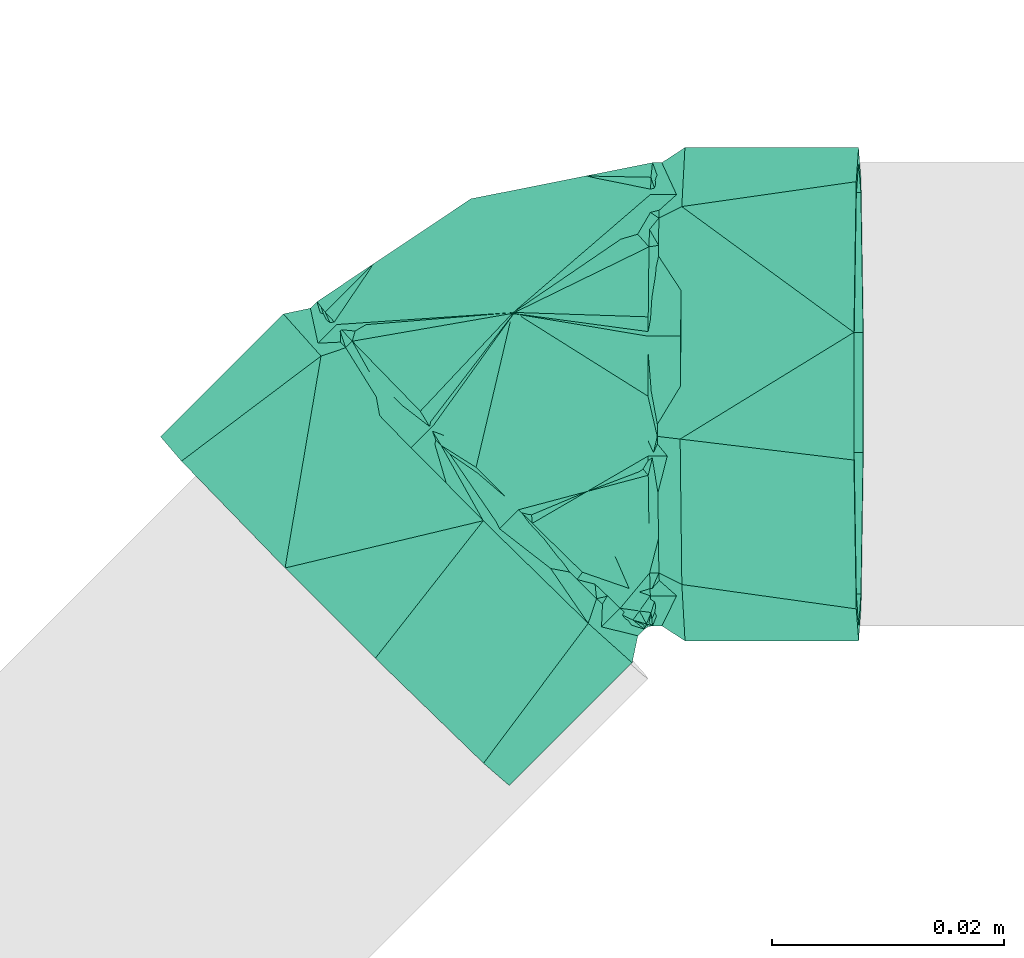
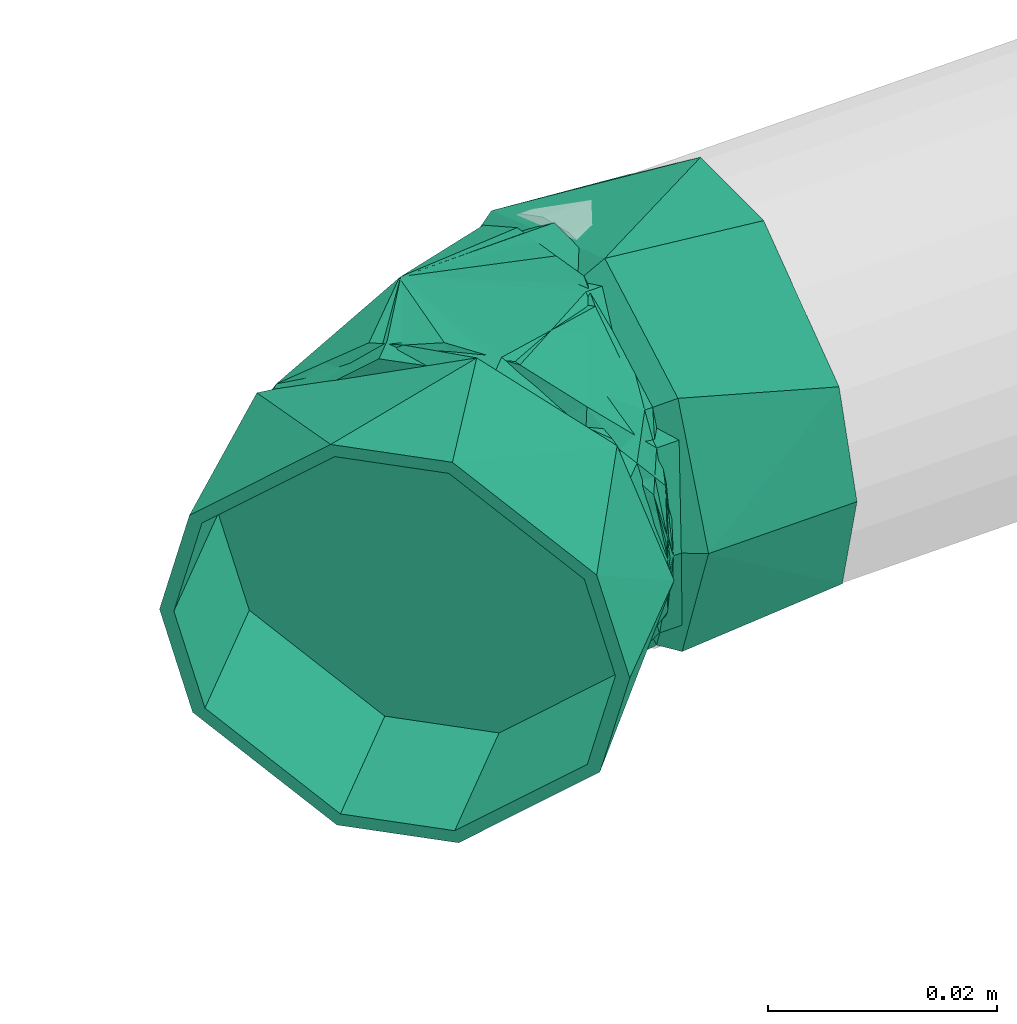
# One storey, part 343 of 589: 1 flow fitting.
"""IFC2X3 building model written with IfcOpenShell, lengths in millimetres."""

from ifc_helpers import new_model, entity, si_unit, converted_unit, derived_unit, direction, frame, origin, place, context, subcontext, project, spatial, faceted_brep, source, transform, mapped, material, type_object, type_shapes, element, save


model = new_model("IFC2X3")

# Units and contexts
model_context = context("Model", 3, precision=0.01, world=origin(), true_north=direction((6.123031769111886e-17, 1.0)))
body_context = subcontext(model_context, "Body", "Model", "MODEL_VIEW")
ifc_project = project(units=[si_unit("LENGTHUNIT", "METRE", prefix="MILLI"), si_unit("AREAUNIT", "SQUARE_METRE"), si_unit("VOLUMEUNIT", "CUBIC_METRE"), converted_unit("PLANEANGLEUNIT", "DEGREE", entity("IfcRatioMeasure", 0.017453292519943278), si_unit("PLANEANGLEUNIT", "RADIAN"), dimensions=[0, 0, 0, 0, 0, 0, 0]), si_unit("MASSUNIT", "GRAM", prefix="KILO"), derived_unit("MASSDENSITYUNIT", [(si_unit("MASSUNIT", "GRAM", prefix="KILO"), 1), (si_unit("LENGTHUNIT", "METRE"), -3)]), derived_unit("IONCONCENTRATIONUNIT", [(si_unit("MASSUNIT", "GRAM", prefix="KILO"), 1), (si_unit("LENGTHUNIT", "METRE"), -3)]), derived_unit("MOMENTOFINERTIAUNIT", [(si_unit("LENGTHUNIT", "METRE"), 4)]), si_unit("TIMEUNIT", "SECOND"), si_unit("FREQUENCYUNIT", "HERTZ"), si_unit("THERMODYNAMICTEMPERATUREUNIT", "DEGREE_CELSIUS"), derived_unit("THERMALTRANSMITTANCEUNIT", [(si_unit("MASSUNIT", "GRAM", prefix="KILO"), 1), (si_unit("THERMODYNAMICTEMPERATUREUNIT", "KELVIN"), -1), (si_unit("TIMEUNIT", "SECOND"), -3)]), derived_unit("THERMALCONDUCTANCEUNIT", [(si_unit("MASSUNIT", "GRAM", prefix="KILO"), 1), (si_unit("THERMODYNAMICTEMPERATUREUNIT", "KELVIN"), -1), (si_unit("TIMEUNIT", "SECOND"), -3), (si_unit("LENGTHUNIT", "METRE"), 1)]), derived_unit("VOLUMETRICFLOWRATEUNIT", [(si_unit("LENGTHUNIT", "METRE"), 3), (si_unit("TIMEUNIT", "SECOND"), -1)]), derived_unit("MASSFLOWRATEUNIT", [(si_unit("MASSUNIT", "GRAM", prefix="KILO"), 1), (si_unit("TIMEUNIT", "SECOND"), -1)]), derived_unit("ROTATIONALFREQUENCYUNIT", [(si_unit("TIMEUNIT", "SECOND"), -1)]), si_unit("ELECTRICCURRENTUNIT", "AMPERE"), si_unit("ELECTRICVOLTAGEUNIT", "VOLT"), si_unit("POWERUNIT", "WATT"), si_unit("FORCEUNIT", "NEWTON", prefix="KILO"), si_unit("ILLUMINANCEUNIT", "LUX"), si_unit("LUMINOUSFLUXUNIT", "LUMEN"), si_unit("LUMINOUSINTENSITYUNIT", "CANDELA"), derived_unit("USERDEFINED", [(si_unit("MASSUNIT", "GRAM", prefix="KILO"), -1), (si_unit("LENGTHUNIT", "METRE"), -2), (si_unit("TIMEUNIT", "SECOND"), 3), (si_unit("LUMINOUSFLUXUNIT", "LUMEN"), 1)]), derived_unit("USERDEFINED", [(si_unit("MASSUNIT", "GRAM", prefix="KILO"), 1), (si_unit("TIMEUNIT", "SECOND"), -3), (si_unit("LENGTHUNIT", "METRE"), 3), (si_unit("ELECTRICCURRENTUNIT", "AMPERE"), -2)]), derived_unit("SOUNDPOWERUNIT", [(si_unit("MASSUNIT", "GRAM", prefix="KILO"), 1), (si_unit("TIMEUNIT", "SECOND"), -3), (si_unit("LENGTHUNIT", "METRE"), 2)]), derived_unit("SOUNDPRESSUREUNIT", [(si_unit("MASSUNIT", "GRAM", prefix="KILO"), 1), (si_unit("LENGTHUNIT", "METRE"), -1), (si_unit("TIMEUNIT", "SECOND"), -2)]), derived_unit("LINEARVELOCITYUNIT", [(si_unit("LENGTHUNIT", "METRE"), 1), (si_unit("TIMEUNIT", "SECOND"), -1)]), si_unit("PRESSUREUNIT", "PASCAL"), derived_unit("USERDEFINED", [(si_unit("MASSUNIT", "GRAM", prefix="KILO"), 1), (si_unit("LENGTHUNIT", "METRE"), -2), (si_unit("TIMEUNIT", "SECOND"), -2)]), derived_unit("LINEARFORCEUNIT", [(si_unit("MASSUNIT", "GRAM", prefix="KILO"), 1), (si_unit("TIMEUNIT", "SECOND"), -2)]), derived_unit("PLANARFORCEUNIT", [(si_unit("MASSUNIT", "GRAM", prefix="KILO"), 1), (si_unit("LENGTHUNIT", "METRE"), -1), (si_unit("TIMEUNIT", "SECOND"), -2)]), derived_unit("SPECIFICHEATCAPACITYUNIT", [(si_unit("THERMODYNAMICTEMPERATUREUNIT", "KELVIN"), -1), (si_unit("LENGTHUNIT", "METRE"), 2), (si_unit("TIMEUNIT", "SECOND"), -2)]), derived_unit("HEATINGVALUEUNIT", [(si_unit("LENGTHUNIT", "METRE"), 2), (si_unit("TIMEUNIT", "SECOND"), -2)]), derived_unit("VAPORPERMEABILITYUNIT", [(si_unit("LENGTHUNIT", "METRE"), -1), (si_unit("TIMEUNIT", "SECOND"), 1)]), derived_unit("DYNAMICVISCOSITYUNIT", [(si_unit("MASSUNIT", "GRAM", prefix="KILO"), 1), (si_unit("TIMEUNIT", "SECOND"), -1), (si_unit("LENGTHUNIT", "METRE"), -1)]), derived_unit("THERMALEXPANSIONCOEFFICIENTUNIT", [(si_unit("THERMODYNAMICTEMPERATUREUNIT", "KELVIN"), -1)]), derived_unit("MODULUSOFELASTICITYUNIT", [(si_unit("MASSUNIT", "GRAM", prefix="KILO"), 1), (si_unit("LENGTHUNIT", "METRE"), -1), (si_unit("TIMEUNIT", "SECOND"), -2)]), derived_unit("ISOTHERMALMOISTURECAPACITYUNIT", [(si_unit("LENGTHUNIT", "METRE"), 3), (si_unit("MASSUNIT", "GRAM", prefix="KILO"), -1)]), derived_unit("MOISTUREDIFFUSIVITYUNIT", [(si_unit("TIMEUNIT", "SECOND"), -1), (si_unit("LENGTHUNIT", "METRE"), 2)])], contexts=[model_context])

# Site, building, storey
site_placement = place(None, origin())
site = spatial("IfcSite", under=ifc_project, at=site_placement, Name="Default", CompositionType="ELEMENT")
building_placement = place(site_placement, origin())
building = spatial("IfcBuilding", under=site, at=building_placement, CompositionType="ELEMENT")
storey_placement = place(building_placement, frame((0.0, 0.0, 100.0)))
storey = spatial("IfcBuildingStorey", under=building, at=storey_placement, Name="TÉRREO", CompositionType="ELEMENT", Elevation=100.0)

# Flow fitting
ifc_material = material(Name="PVC Série Normal")
pipe_fitting_type = type_object("IfcPipeFittingType", Name="PVC Esgoto_Joelho 45_90_Rodrigo MEP:a. Série Normal", PredefinedType="NOTDEFINED", material=ifc_material)
shared_shape = source(origin(), body_context, "Body", "Brep", [
    faceted_brep([(2.4906876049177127, 9.80915852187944, 19.318516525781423), (-6.095084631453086, 18.39777540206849, 10.0), (-7.989457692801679, 20.29277610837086, 0.0), (-6.095084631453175, 18.397775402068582, -10.0), (2.4906876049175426, 9.80915852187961, -19.31851652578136), (9.809983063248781, 2.4874380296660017, -19.318516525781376), (18.39575529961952, -6.101178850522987, -10.0), (20.290128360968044, -7.99617955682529, 0.0), (18.39575529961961, -6.101178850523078, 10.0), (9.809983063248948, 2.4874380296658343, 19.318516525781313), (22.27035525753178, -6.016608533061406, 0.0), (20.37598219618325, -4.121607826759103, -10.0), (11.790209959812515, 4.467009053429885, -19.318516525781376), (4.470914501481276, 11.788729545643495, -19.31851652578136), (-4.1148577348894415, 20.377346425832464, -10.0), (-6.009230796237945, 22.272347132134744, 0.0), (-4.114857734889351, 20.377346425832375, 10.0), (4.470914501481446, 11.788729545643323, 19.318516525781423), (11.790209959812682, 4.467009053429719, 19.318516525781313), (20.37598219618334, -4.12160782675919, 10.0)], [[[0, 1, 2, 3, 4, 5, 6, 7, 8, 9]], [[10, 11, 12, 13, 14, 15, 16, 17, 18, 19]], [[7, 10, 19, 8]], [[8, 19, 18, 9]], [[18, 17, 0, 9]], [[0, 17, 16, 1]], [[1, 16, 15, 2]], [[2, 15, 14, 3]], [[3, 14, 13, 4]], [[13, 12, 5, 4]], [[5, 12, 11, 6]], [[6, 11, 10, 7]]]),
    faceted_brep([(-11.496447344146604, -17.320508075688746, -10.0), (-11.496447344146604, -20.0, 0.0), (-11.496447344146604, -17.320508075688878, 10.0), (-11.496447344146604, -5.176380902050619, 19.318516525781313), (-11.496447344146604, 5.1763809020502, 19.318516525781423), (-11.496447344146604, 17.320508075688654, 10.0), (-11.496447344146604, 20.0, 0.0), (-11.496447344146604, 17.320508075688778, -10.0), (-11.496447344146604, 5.17638090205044, -19.31851652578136), (-11.496447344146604, -5.176380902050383, -19.318516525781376), (-8.696447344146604, 5.17638090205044, -19.31851652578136), (-8.696447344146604, 17.320508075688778, -10.0), (-8.696447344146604, 20.0, 0.0), (-8.696447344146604, 17.320508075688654, 10.0), (-8.696447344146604, 5.1763809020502, 19.318516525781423), (-8.696447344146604, -5.176380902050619, 19.318516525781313), (-8.696447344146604, -17.320508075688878, 10.0), (-8.696447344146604, -20.0, 0.0), (-8.696447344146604, -17.320508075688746, -10.0), (-8.696447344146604, -5.176380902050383, -19.318516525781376)], [[[0, 1, 2, 3, 4, 5, 6, 7, 8, 9]], [[10, 11, 12, 13, 14, 15, 16, 17, 18, 19]], [[1, 17, 16, 2]], [[2, 16, 15, 3]], [[15, 14, 4, 3]], [[4, 14, 13, 5]], [[5, 13, 12, 6]], [[6, 12, 11, 7]], [[7, 11, 10, 8]], [[10, 19, 9, 8]], [[9, 19, 18, 0]], [[0, 18, 17, 1]]]),
    faceted_brep([(-26.496447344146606, -5.512845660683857, -20.574220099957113), (-26.496447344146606, -5.176380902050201, -19.318516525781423), (-26.496447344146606, 5.176380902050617, -19.318516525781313), (-26.496447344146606, -18.44634110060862, -10.649999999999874), (-26.496447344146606, 5.512845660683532, -20.574220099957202), (-26.496447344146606, -17.320508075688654, -10.0), (-26.496447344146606, -20.0, 0.0), (-26.496447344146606, -21.3, 0.0), (-26.496447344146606, -17.32050807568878, 10.0), (-26.496447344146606, -18.446341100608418, 10.65000000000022), (-26.496447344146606, -5.176380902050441, 19.31851652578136), (-26.496447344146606, -5.512845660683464, 20.574220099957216), (-26.496447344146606, 5.176380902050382, 19.318516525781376), (-26.496447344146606, 5.512845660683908, 20.5742200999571), (-26.496447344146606, 17.320508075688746, 10.0), (-26.496447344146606, 18.446341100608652, 10.649999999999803), (-26.496447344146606, 21.3, 0.0), (-26.496447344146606, 20.0, 0.0), (-26.496447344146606, 18.44634110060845, -10.650000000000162), (-26.496447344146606, 17.320508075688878, -10.0), (-11.496447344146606, 17.320508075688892, -10.0), (-11.496447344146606, 20.0, 0.0), (-11.496447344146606, 5.17638090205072, -19.318516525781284), (-11.496447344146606, -5.176380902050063, -19.31851652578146), (-11.496447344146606, -17.320508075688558, -10.0), (-11.496447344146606, -20.0, 0.0), (-11.496447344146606, -17.320508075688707, 10.0), (-11.496447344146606, -5.176380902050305, 19.318516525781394), (-11.496447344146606, 5.176380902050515, 19.318516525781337), (-11.496447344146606, 17.320508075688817, 10.0), (-11.496447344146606, 21.3, 0.0), (-11.496447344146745, 16.315983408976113, 13.692285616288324), (-11.496447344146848, 3.696367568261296, 20.976817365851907), (-11.496447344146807, -16.31941754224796, 13.688192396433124), (-11.496447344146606, -21.3, 0.0), (-11.496447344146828, -6.311524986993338, 17.3325048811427), (-11.496447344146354, -16.319417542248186, -13.688192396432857), (-11.496447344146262, -3.7016293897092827, -20.975889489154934), (-11.49644734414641, 16.315983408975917, -13.692285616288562), (-11.496447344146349, 6.307177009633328, -17.334087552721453), (-9.496447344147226, -3.470767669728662, -19.69654212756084), (-9.496447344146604, 20.0, 0.0), (-9.496447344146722, 18.830849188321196, -3.2131907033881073), (-9.496447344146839, 17.66169837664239, -6.426381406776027), (-9.496447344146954, 16.4925475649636, -9.639572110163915), (-9.496447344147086, 15.323396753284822, -12.852762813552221), (-9.496447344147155, 5.9263145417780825, -16.27465247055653), (-9.496447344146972, -15.320172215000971, -12.856606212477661), (-9.496447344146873, -16.490129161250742, -9.642454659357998), (-9.496447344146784, -17.660086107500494, -6.428303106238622), (-9.496447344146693, -18.830043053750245, -3.214151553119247), (-9.496447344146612, -20.0, 0.0), (-9.496447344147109, 10.624855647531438, -14.563707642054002), (-9.496447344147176, 1.2277734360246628, -17.98559729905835), (-9.49644734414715, -6.433118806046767, -17.98655814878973), (-9.496447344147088, -9.395469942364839, -16.276574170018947), (-9.496447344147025, -12.357821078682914, -14.566590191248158), (-9.49644734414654, -18.830043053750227, 3.2141515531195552), (-9.496447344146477, -17.660086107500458, 6.428303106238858), (-9.49644734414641, -16.490129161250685, 9.64245465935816), (-9.496447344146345, -15.3201722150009, 12.856606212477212), (-9.496447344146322, -12.970687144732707, 13.711489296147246), (-9.496447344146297, -10.621202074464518, 14.566372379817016), (-9.496447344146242, -5.922231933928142, 16.27613854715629), (-9.496447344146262, 15.323396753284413, 12.852762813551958), (-9.496447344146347, 16.49254756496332, 9.63957211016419), (-9.496447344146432, 17.661698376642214, 6.426381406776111), (-9.496447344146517, 18.830849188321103, 3.213190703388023), (-9.496447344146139, 3.47570834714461, 19.695670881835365), (-9.496447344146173, 6.43763044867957, 17.984943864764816), (-9.496447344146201, 9.399552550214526, 16.274216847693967), (-9.496447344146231, 12.361474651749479, 14.563489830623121), (-9.496447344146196, -1.2232617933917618, 17.985904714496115), (-8.696447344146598, 17.057389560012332, 9.848048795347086), (-8.696447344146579, 6.840479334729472, 18.793824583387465), (-8.696447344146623, -9.848049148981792, 17.057385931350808), (-8.696447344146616, -3.420183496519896, 19.396932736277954), (-8.696447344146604, 0.0, 20.0), (-8.696447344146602, 19.396930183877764, 3.4201905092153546), (-8.696447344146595, 15.320918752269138, 12.855716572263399), (-8.696447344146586, 11.080699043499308, 15.82477057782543), (-8.696447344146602, 18.793860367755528, 6.840381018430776), (-8.696447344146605, -18.793848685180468, 6.840413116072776), (-8.696447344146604, 20.0, 0.0), (-8.696447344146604, -20.0, 0.0), (-8.69644734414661, -15.824789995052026, 11.080659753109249), (-8.696447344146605, -19.156924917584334, 4.781308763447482), (-8.696447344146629, -6.84036699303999, 18.793865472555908), (-8.696447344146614, -14.34026064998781, 13.200783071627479), (-8.696447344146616, -12.855731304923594, 15.320906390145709), (-8.696447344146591, 3.420239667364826, 19.396912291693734), (-8.696447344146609, -17.057361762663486, -9.848091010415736), (-8.696447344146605, -18.793848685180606, -6.840413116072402), (-8.696447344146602, 19.39693018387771, -3.4201905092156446), (-8.696447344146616, -3.420183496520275, -19.396932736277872), (-8.696447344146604, 0.0, -20.0), (-8.696447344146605, -19.396924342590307, -3.4202065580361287), (-8.696447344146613, -15.320874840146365, -12.85576890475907), (-8.69644734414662, -11.080620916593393, -15.824817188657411), (-8.696447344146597, 15.824828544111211, -11.080616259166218), (-8.696447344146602, 18.79386036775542, -6.84038101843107), (-8.696447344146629, -6.840366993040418, -18.79386547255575), (-8.696447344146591, 12.855796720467, -15.320851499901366), (-8.696447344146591, 3.420239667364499, -19.396912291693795), (-8.696447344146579, 6.840479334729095, -18.7938245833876), (-8.696447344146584, 9.848138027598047, -17.05733804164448), (9.809983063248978, 2.4874380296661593, -19.318516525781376), (2.4906876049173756, 9.809158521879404, -19.31851652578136), (-6.095084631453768, 18.397775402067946, -10.0), (-7.989457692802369, 20.292776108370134, 0.0), (-6.095084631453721, 18.3977754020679, 10.0), (2.490687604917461, 9.809158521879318, 19.31851652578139), (9.809983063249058, 2.487438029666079, 19.318516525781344), (18.395755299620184, -6.101178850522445, 10.0), (20.29012836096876, -7.996179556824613, 0.0), (18.39575529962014, -6.101178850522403, -10.0), (-2.9114305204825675, -18.849537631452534, 0.0), (15.385461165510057, -11.272492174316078, 0.0), (2.8664382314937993, -7.211469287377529, 17.605576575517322), (6.9904363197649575, -16.880360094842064, 0.0), (-8.313840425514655, 20.076088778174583, 0.0), (2.8664382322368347, -7.211469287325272, -17.605576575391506)], [[[0, 1, 2]], [[1, 0, 3]], [[2, 4, 0]], [[3, 5, 1]], [[3, 6, 5]], [[6, 3, 7]], [[8, 6, 7]], [[8, 7, 9]], [[9, 10, 8]], [[9, 11, 10]], [[10, 11, 12]], [[13, 12, 11]], [[13, 14, 12]], [[14, 13, 15]], [[16, 14, 15]], [[17, 14, 16]], [[18, 17, 16]], [[18, 19, 17]], [[19, 18, 4]], [[4, 2, 19]], [[20, 21, 17, 19]], [[22, 20, 19, 2]], [[2, 1, 23, 22]], [[24, 23, 1, 5]], [[25, 24, 5, 6]], [[26, 25, 6, 8]], [[27, 26, 8, 10]], [[10, 12, 28, 27]], [[29, 28, 12, 14]], [[21, 29, 14, 17]], [[16, 15, 30]], [[15, 31, 30]], [[31, 15, 13]], [[31, 13, 32]], [[33, 11, 9]], [[34, 9, 7]], [[11, 33, 35, 32]], [[33, 9, 34]], [[11, 32, 13]], [[7, 3, 34]], [[3, 36, 34]], [[36, 3, 0]], [[36, 0, 37]], [[38, 4, 18]], [[30, 18, 16]], [[4, 38, 39, 37]], [[38, 18, 30]], [[4, 37, 0]], [[28, 29, 21, 20, 22, 23, 24, 25, 26, 27]], [[39, 40, 37]], [[30, 41, 42, 43, 44, 45]], [[30, 45, 38]], [[38, 46, 39]], [[36, 47, 48, 49, 50, 51]], [[38, 45, 52, 46]], [[36, 37, 47]], [[34, 36, 51]], [[39, 46, 53, 40]], [[37, 40, 54, 55, 56, 47]], [[33, 51, 57, 58, 59, 60]], [[33, 34, 51]], [[60, 35, 33]], [[35, 60, 61, 62, 63]], [[63, 32, 35]], [[30, 64, 65, 66, 67, 41]], [[31, 68, 69, 70, 71, 64]], [[31, 64, 30]], [[32, 63, 72, 68]], [[68, 31, 32]], [[64, 73, 65]], [[74, 70, 69, 68]], [[62, 75, 63]], [[76, 77, 72]], [[78, 67, 66]], [[79, 71, 80]], [[65, 81, 66]], [[64, 79, 73]], [[82, 59, 58]], [[83, 41, 67]], [[84, 57, 51]], [[60, 59, 85]], [[83, 67, 78]], [[86, 82, 58]], [[81, 65, 73]], [[63, 87, 76]], [[63, 76, 72]], [[63, 75, 87]], [[82, 85, 59]], [[68, 72, 77]], [[66, 81, 78]], [[61, 88, 89]], [[89, 62, 61]], [[68, 77, 90, 74]], [[84, 86, 57]], [[86, 58, 57]], [[89, 75, 62]], [[61, 60, 88]], [[60, 85, 88]], [[74, 80, 70]], [[71, 79, 64]], [[71, 70, 80]], [[49, 91, 92]], [[93, 43, 42]], [[54, 40, 94]], [[40, 53, 95]], [[51, 96, 84]], [[97, 56, 98]], [[48, 97, 91]], [[91, 49, 48]], [[99, 44, 100]], [[101, 55, 54]], [[96, 51, 50]], [[83, 42, 41]], [[45, 99, 102]], [[49, 92, 50]], [[42, 83, 93]], [[48, 47, 97]], [[53, 103, 95]], [[104, 103, 46]], [[52, 105, 46]], [[44, 99, 45]], [[46, 103, 53]], [[50, 92, 96]], [[105, 52, 102]], [[44, 43, 100]], [[40, 95, 94]], [[100, 43, 93]], [[102, 52, 45]], [[105, 104, 46]], [[101, 98, 55]], [[54, 94, 101]], [[56, 97, 47]], [[56, 55, 98]], [[106, 107, 108, 109, 110, 111, 112, 113, 114, 115]], [[116, 89, 88, 85, 82]], [[117, 118, 119]], [[118, 89, 119]], [[118, 77, 76, 87]], [[116, 82, 86, 84]], [[118, 74, 90, 77]], [[110, 81, 73, 79]], [[111, 79, 80, 74]], [[118, 87, 75, 89]], [[89, 116, 119]], [[74, 118, 111]], [[118, 113, 112]], [[118, 117, 113]], [[120, 83, 78, 81]], [[81, 109, 120]], [[109, 81, 110]], [[117, 114, 113]], [[111, 110, 79]], [[111, 118, 112]], [[104, 107, 121]], [[116, 92, 91, 97]], [[108, 102, 99, 100]], [[115, 121, 106]], [[97, 121, 119]], [[107, 104, 105, 102]], [[116, 84, 96, 92]], [[97, 119, 116]], [[121, 97, 98, 101]], [[121, 95, 103, 104]], [[109, 100, 120]], [[108, 100, 109]], [[107, 102, 108]], [[121, 101, 94, 95]], [[107, 106, 121]], [[119, 121, 117]], [[115, 117, 121]], [[115, 114, 117]], [[120, 100, 93, 83]]]),
    faceted_brep([(-6.009230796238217, 22.27234713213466, 0.0), (-4.114857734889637, 20.37734642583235, 10.0), (4.470914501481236, 11.788729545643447, 19.318516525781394), (11.790209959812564, 4.467009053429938, 19.318516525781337), (20.375982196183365, -4.1216078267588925, 10.0), (22.27035525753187, -6.016608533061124, 0.0), (20.37598219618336, -4.121607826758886, -10.0), (11.790209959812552, 4.467009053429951, -19.318516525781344), (4.470914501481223, 11.788729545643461, -19.31851652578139), (-4.114857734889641, 20.377346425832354, -10.0), (23.18944180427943, -6.935999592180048, 0.0), (20.855907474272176, -7.430587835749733, 0.0), (20.02932994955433, -6.603736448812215, -3.213190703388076), (19.20275242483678, -5.7768850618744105, -6.426381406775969), (18.376174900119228, -4.950033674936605, -9.639572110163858), (17.54959737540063, -4.123182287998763, -12.852762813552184), (3.6683793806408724, 12.591530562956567, -17.332504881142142), (10.743855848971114, 5.513709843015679, -20.976817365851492), (4.26231762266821, 9.168499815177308, -19.69654212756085), (19.665793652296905, -3.411183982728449, -13.692285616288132), (-4.115088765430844, 17.54868181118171, -12.856606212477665), (-3.407097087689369, 19.669351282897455, -13.688192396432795), (2.167966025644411, 11.263545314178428, -17.986558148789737), (0.0736144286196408, 13.358590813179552, -16.27657417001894), (-2.0207371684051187, 15.453636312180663, -14.566590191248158), (10.905957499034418, 2.5226587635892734, -16.274652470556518), (-4.942236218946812, 18.37610331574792, -9.642454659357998), (-5.7693836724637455, 19.203524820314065, -6.428303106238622), (-6.596531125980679, 20.030946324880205, -3.2141515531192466), (-7.423678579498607, 20.858367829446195, 0.0), (-6.928317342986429, 23.191738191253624, 0.0), (14.227777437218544, -0.800261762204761, -14.563707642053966), (7.584137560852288, 5.845579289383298, -17.98559729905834), (-3.4070970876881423, 19.669351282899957, 13.688192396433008), (-6.596531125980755, 20.030946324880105, 3.2141515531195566), (-5.7693836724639, 19.20352482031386, 6.428303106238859), (-4.942236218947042, 18.37610331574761, 9.64245465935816), (-4.115088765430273, 17.548681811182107, 12.856606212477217), (12.589671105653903, 3.6672830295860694, 17.334087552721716), (5.513548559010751, 10.745750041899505, 20.97588948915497), (9.173404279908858, 4.255786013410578, 19.695670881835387), (17.549597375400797, -4.123182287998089, 12.852762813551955), (19.66579365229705, -3.4111839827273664, 13.692285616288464), (11.267452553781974, 2.1610439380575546, 17.984943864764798), (13.361500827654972, 0.0663018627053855, 16.274216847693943), (15.455549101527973, -2.028440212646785, 14.563489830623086), (2.5291577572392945, 10.902233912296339, 16.276138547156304), (18.376174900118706, -4.950033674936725, 9.639572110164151), (19.202752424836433, -5.77688506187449, 6.426381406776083), (20.029329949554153, -6.603736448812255, 3.2131907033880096), (-2.4540271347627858, 15.887069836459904, 13.711489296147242), (-0.7929655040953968, 14.225457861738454, 14.566372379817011), (5.851281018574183, 7.579009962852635, 17.985904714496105), (14.841395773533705, 22.631530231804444, -20.574220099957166), (15.079272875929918, 22.39357431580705, -19.318516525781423), (22.398568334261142, 15.071853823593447, -19.318516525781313), (5.697548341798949, 31.77840720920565, -10.649999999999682), (22.63644543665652, 14.833897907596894, -20.574220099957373), (6.493500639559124, 30.982191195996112, -10.0), (4.599127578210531, 32.877191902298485, 0.0), (3.6800410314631, 33.79658296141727, 0.0), (6.493500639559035, 30.9821911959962, 10.0), (5.69754834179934, 31.778407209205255, 10.650000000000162), (15.079272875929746, 22.393574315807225, 19.31851652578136), (14.841395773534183, 22.631530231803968, 20.5742200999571), (22.39856833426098, 15.071853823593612, 19.318516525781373), (22.636445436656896, 14.833897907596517, 20.57422009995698), (30.984340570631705, 6.48323694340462, 10.0), (31.780292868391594, 5.687020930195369, 10.649999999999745), (33.79780017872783, 3.668845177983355, 0.0), (32.87871363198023, 4.588236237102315, 0.0), (31.780292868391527, 5.687020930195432, -10.650000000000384), (30.984340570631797, 6.4832369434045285, -10.0), (18.209713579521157, -5.915075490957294, 9.848091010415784), (10.98640400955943, 1.3106273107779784, 18.793865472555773), (-0.8121963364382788, 13.113136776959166, 17.057338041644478), (3.7322612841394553, 8.567173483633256, 19.396912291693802), (6.150335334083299, 6.148298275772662, 20.0), (19.863760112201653, -7.5696700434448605, 3.420206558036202), (16.98203529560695, -4.686990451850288, 12.855768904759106), (13.984219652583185, -1.6881815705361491, 15.824817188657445), (19.43739186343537, -7.143160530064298, 6.84041311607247), (-7.136729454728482, 19.43976534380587, 6.840381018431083), (20.29012836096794, -7.996179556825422, 0.0), (-7.989457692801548, 20.29277610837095, 0.0), (-5.037654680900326, 17.33999510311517, 11.080616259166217), (-7.393415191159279, 19.696536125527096, 4.781309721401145), (1.3141872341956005, 10.986048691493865, 18.793824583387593), (-3.98811729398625, 16.290109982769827, 13.200733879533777), (-2.9385799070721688, 15.240224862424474, 15.320851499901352), (8.568369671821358, 3.7294627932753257, 19.39693273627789), (-5.909062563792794, 18.211691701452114, -9.848048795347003), (-7.13672945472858, 19.439765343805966, -6.840381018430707), (19.86376011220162, -7.5696700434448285, -3.420206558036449), (3.732261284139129, 8.567173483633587, -19.396912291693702), (6.15033533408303, 6.148298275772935, -20.0), (-7.563093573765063, 19.86627072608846, -3.4201905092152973), (-4.681395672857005, 16.983618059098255, -12.85571657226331), (-1.6836042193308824, 13.98483337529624, -15.824770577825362), (17.33829809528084, -5.043371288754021, -11.080659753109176), (19.437391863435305, -7.143160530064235, -6.840413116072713), (1.3141872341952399, 10.986048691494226, -18.793824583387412), (15.23920432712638, -2.9435820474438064, -15.32090639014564), (8.568369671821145, 3.729462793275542, -19.396932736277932), (10.986404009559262, 1.3106273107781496, -18.79386547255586), (13.112804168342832, -0.8164773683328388, -17.05738593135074), (-8.696447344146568, -17.32050807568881, 10.0), (-8.696447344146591, -5.176380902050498, 19.318516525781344), (-8.696447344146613, 5.176380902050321, 19.31851652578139), (-8.696447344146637, 17.320508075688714, 10.0), (-8.696447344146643, 20.0, 0.0), (-8.696447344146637, 17.320508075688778, -10.0), (-8.696447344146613, 5.176380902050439, -19.31851652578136), (-8.696447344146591, -5.176380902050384, -19.318516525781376), (-8.696447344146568, -17.32050807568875, -10.0), (-8.696447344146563, -20.0, 0.0), (6.9904363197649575, -16.880360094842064, 0.0), (3.0712196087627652, -7.126666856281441, 17.605576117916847), (-2.9114305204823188, -18.84953763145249, 0.0), (-8.313840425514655, 20.076088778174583, 0.0), (15.385461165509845, -11.272492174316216, 0.0), (3.071219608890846, -7.126666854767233, -17.6055761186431)], [[[0, 1, 2, 3, 4, 5, 6, 7, 8, 9]], [[10, 11, 12, 13, 14, 15]], [[16, 17, 18]], [[19, 10, 15]], [[16, 20, 21]], [[16, 18, 22, 23, 24, 20]], [[19, 25, 17]], [[21, 20, 26, 27, 28, 29]], [[21, 29, 30]], [[19, 15, 31, 25]], [[17, 25, 32, 18]], [[33, 29, 34, 35, 36, 37]], [[38, 39, 40]], [[33, 30, 29]], [[38, 41, 42]], [[38, 40, 43, 44, 45, 41]], [[33, 46, 39]], [[10, 41, 47, 48, 49, 11]], [[42, 41, 10]], [[33, 37, 50, 51, 46]], [[39, 46, 52, 40]], [[53, 54, 55]], [[54, 53, 56]], [[55, 57, 53]], [[56, 58, 54]], [[56, 59, 58]], [[59, 56, 60]], [[61, 59, 60]], [[61, 60, 62]], [[62, 63, 61]], [[62, 64, 63]], [[63, 64, 65]], [[66, 65, 64]], [[66, 67, 65]], [[67, 66, 68]], [[69, 67, 68]], [[70, 67, 69]], [[71, 70, 69]], [[71, 72, 70]], [[72, 71, 57]], [[57, 55, 72]], [[69, 68, 10]], [[68, 42, 10]], [[42, 68, 66]], [[66, 39, 38, 42]], [[33, 64, 62]], [[30, 62, 60]], [[64, 33, 39]], [[33, 62, 30]], [[64, 39, 66]], [[60, 56, 30]], [[56, 21, 30]], [[21, 56, 53]], [[53, 17, 16, 21]], [[19, 57, 71]], [[10, 71, 69]], [[57, 19, 17]], [[19, 71, 10]], [[57, 17, 53]], [[6, 5, 70, 72]], [[7, 6, 72, 55]], [[55, 54, 8, 7]], [[9, 8, 54, 58]], [[0, 9, 58, 59]], [[1, 0, 59, 61]], [[2, 1, 61, 63]], [[63, 65, 3, 2]], [[4, 3, 65, 67]], [[5, 4, 67, 70]], [[41, 73, 47]], [[74, 44, 43, 40]], [[51, 75, 46]], [[76, 77, 52]], [[78, 49, 48]], [[79, 45, 80]], [[47, 81, 48]], [[41, 79, 73]], [[82, 36, 35]], [[83, 11, 49]], [[84, 34, 29]], [[37, 36, 85]], [[83, 49, 78]], [[86, 82, 35]], [[81, 47, 73]], [[46, 87, 76]], [[46, 76, 52]], [[46, 75, 87]], [[82, 85, 36]], [[40, 52, 77]], [[48, 81, 78]], [[50, 88, 89]], [[89, 51, 50]], [[40, 77, 90, 74]], [[84, 86, 34]], [[86, 35, 34]], [[89, 75, 51]], [[50, 37, 88]], [[37, 85, 88]], [[74, 80, 44]], [[45, 79, 41]], [[45, 44, 80]], [[27, 91, 92]], [[93, 13, 12]], [[22, 18, 94]], [[18, 32, 95]], [[29, 96, 84]], [[97, 24, 98]], [[26, 97, 91]], [[91, 27, 26]], [[99, 14, 100]], [[101, 23, 22]], [[96, 29, 28]], [[83, 12, 11]], [[15, 99, 102]], [[27, 92, 28]], [[12, 83, 93]], [[26, 20, 97]], [[32, 103, 95]], [[104, 103, 25]], [[31, 105, 25]], [[14, 99, 15]], [[25, 103, 32]], [[28, 92, 96]], [[105, 31, 102]], [[14, 13, 100]], [[18, 95, 94]], [[100, 13, 93]], [[102, 31, 15]], [[105, 104, 25]], [[101, 98, 23]], [[22, 94, 101]], [[24, 97, 20]], [[24, 23, 98]], [[106, 107, 108, 109, 110, 111, 112, 113, 114, 115]], [[116, 117, 118]], [[107, 117, 108]], [[118, 117, 106]], [[109, 108, 89]], [[82, 119, 110]], [[110, 109, 82]], [[106, 115, 118]], [[117, 74, 90, 77]], [[79, 117, 116]], [[117, 79, 80, 74]], [[79, 116, 120]], [[117, 77, 76, 87]], [[119, 82, 86, 84]], [[120, 81, 73, 79]], [[109, 89, 88, 85, 82]], [[108, 87, 75, 89]], [[106, 117, 107]], [[117, 87, 108]], [[120, 83, 78, 81]], [[121, 112, 101]], [[111, 110, 92]], [[118, 115, 114]], [[111, 97, 112]], [[121, 118, 114]], [[121, 114, 113]], [[113, 112, 121]], [[92, 110, 119]], [[111, 92, 91, 97]], [[112, 97, 98, 101]], [[121, 104, 105, 102]], [[118, 121, 116]], [[121, 101, 94, 95]], [[102, 116, 121]], [[120, 100, 93, 83]], [[116, 102, 120]], [[120, 102, 99, 100]], [[121, 95, 103, 104]], [[119, 84, 96, 92]]]),
])
type_shapes(pipe_fitting_type, [shared_shape])
flow_fitting_placement = place(storey_placement, frame((-6975.341015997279, -4713.922213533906, -215.84932873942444), z_axis=(-0.019989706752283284, -0.00828794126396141, 0.9997658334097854), x_axis=(-0.999800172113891, -4.6453889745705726e-08, -0.019990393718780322)))
element("IfcFlowFitting", 1, at=flow_fitting_placement, inside=storey, type_object=pipe_fitting_type, material=ifc_material, Name="PVC Esgoto_Joelho 45_90_Rodrigo MEP:a. Série Normal", ObjectType="PVC Esgoto_Joelho 45_90_Rodrigo MEP:a. Série Normal", context=body_context, shape_type="MappedRepresentation", body=[
    mapped(shared_shape, transform((0.0, 0.0, 0.0), scale=1.0)),
])

save(model, "model.ifc")
